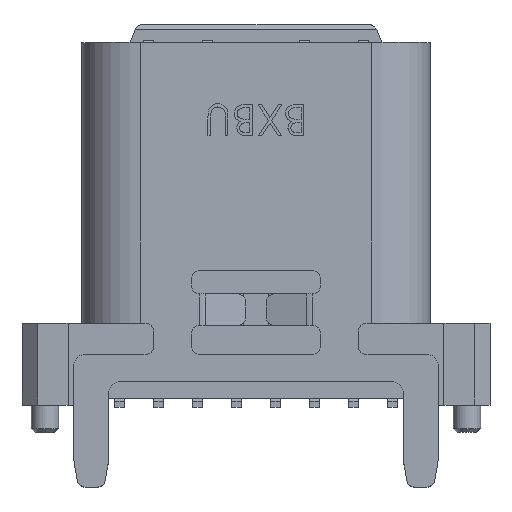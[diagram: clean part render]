
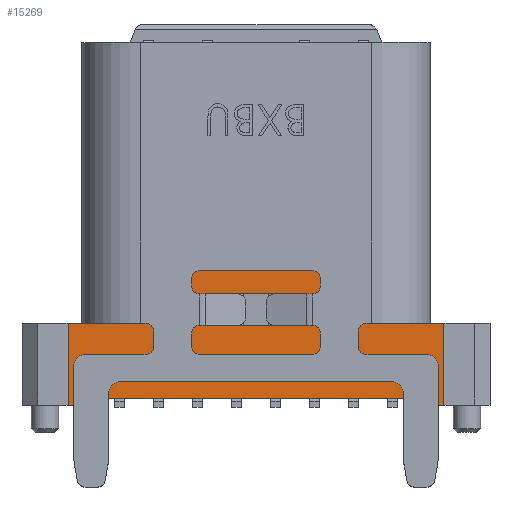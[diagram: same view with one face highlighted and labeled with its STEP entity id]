
A CAD part, top view. The second image highlights one B-rep face of the part: STEP entity #15269.
In plain terms, the highlighted planar face has unit normal (0, 0, 1).
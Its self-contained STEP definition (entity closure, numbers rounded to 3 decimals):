
#73 = DIRECTION ( 'NONE',  ( -1., 0., 0. ) ) ;
#222 = DIRECTION ( 'NONE',  ( 1., 0., 0. ) ) ;
#421 = VERTEX_POINT ( 'NONE', #7737 ) ;
#1040 = EDGE_CURVE ( 'NONE', #15908, #17272, #4727, .T. ) ;
#1053 = LINE ( 'NONE', #4977, #8233 ) ;
#1226 = EDGE_CURVE ( 'NONE', #15678, #4589, #14870, .T. ) ;
#1284 = VERTEX_POINT ( 'NONE', #13378 ) ;
#1301 = CARTESIAN_POINT ( 'NONE',  ( 21.705, -19.999, -0.33 ) ) ;
#1416 = VECTOR ( 'NONE', #12732, 1000. ) ;
#1466 = EDGE_CURVE ( 'NONE', #7004, #16719, #8377, .T. ) ;
#1522 = EDGE_LOOP ( 'NONE', ( #15790, #6476, #3836, #15058, #16117, #13472, #10928, #2552, #15754, #4750, #16832, #13943 ) ) ;
#1555 = CARTESIAN_POINT ( 'NONE',  ( 27.645, -19.999, -0.33 ) ) ;
#1627 = AXIS2_PLACEMENT_3D ( 'NONE', #18063, #2508, #15276 ) ;
#1745 = CARTESIAN_POINT ( 'NONE',  ( 27.645, -23.049, -0.33 ) ) ;
#2296 = EDGE_CURVE ( 'NONE', #421, #1284, #15570, .T. ) ;
#2480 = LINE ( 'NONE', #12337, #15930 ) ;
#2508 = DIRECTION ( 'NONE',  ( 0., 0., 1. ) ) ;
#2552 = ORIENTED_EDGE ( 'NONE', *, *, #16503, .F. ) ;
#2700 = CARTESIAN_POINT ( 'NONE',  ( 25.98, -22.279, -0.33 ) ) ;
#2731 = LINE ( 'NONE', #14190, #17552 ) ;
#2842 = EDGE_CURVE ( 'NONE', #17272, #15678, #5167, .T. ) ;
#3244 = EDGE_LOOP ( 'NONE', ( #15638, #12162, #6382, #16050 ) ) ;
#3393 = DIRECTION ( 'NONE',  ( -1., 0., 0. ) ) ;
#3481 = LINE ( 'NONE', #12018, #9211 ) ;
#3734 = EDGE_CURVE ( 'NONE', #4816, #7004, #14410, .T. ) ;
#3836 = ORIENTED_EDGE ( 'NONE', *, *, #3734, .F. ) ;
#3952 = VECTOR ( 'NONE', #222, 1000. ) ;
#3973 = DIRECTION ( 'NONE',  ( 0., -1., 0. ) ) ;
#4209 = CARTESIAN_POINT ( 'NONE',  ( 20.35, -25.149, -0.33 ) ) ;
#4240 = CARTESIAN_POINT ( 'NONE',  ( 19.855, -23.049, -0.33 ) ) ;
#4422 = CARTESIAN_POINT ( 'NONE',  ( 23.37, -22.279, -0.33 ) ) ;
#4589 = VERTEX_POINT ( 'NONE', #9539 ) ;
#4634 = DIRECTION ( 'NONE',  ( 0., 1., 0. ) ) ;
#4727 = LINE ( 'NONE', #1745, #6410 ) ;
#4750 = ORIENTED_EDGE ( 'NONE', *, *, #2842, .T. ) ;
#4816 = VERTEX_POINT ( 'NONE', #8882 ) ;
#4977 = CARTESIAN_POINT ( 'NONE',  ( 25.98, -22.259, -0.33 ) ) ;
#5068 = DIRECTION ( 'NONE',  ( 0., -1., 0. ) ) ;
#5128 = DIRECTION ( 'NONE',  ( -1., 0., 0. ) ) ;
#5167 = LINE ( 'NONE', #10905, #17276 ) ;
#5435 = CARTESIAN_POINT ( 'NONE',  ( 29.495, -25.149, -0.33 ) ) ;
#5511 = FACE_BOUND ( 'NONE', #3244, .T. ) ;
#5602 = EDGE_CURVE ( 'NONE', #7020, #11877, #2731, .T. ) ;
#5657 = DIRECTION ( 'NONE',  ( -1., 0., 0. ) ) ;
#5672 = DIRECTION ( 'NONE',  ( 0., 1., 0. ) ) ;
#5964 = VERTEX_POINT ( 'NONE', #17151 ) ;
#6313 = DIRECTION ( 'NONE',  ( 0., -1., 0. ) ) ;
#6346 = VECTOR ( 'NONE', #73, 1000. ) ;
#6382 = ORIENTED_EDGE ( 'NONE', *, *, #16172, .F. ) ;
#6388 = VECTOR ( 'NONE', #5128, 1000. ) ;
#6392 = EDGE_CURVE ( 'NONE', #16719, #17571, #11400, .T. ) ;
#6410 = VECTOR ( 'NONE', #4634, 1000. ) ;
#6436 = CARTESIAN_POINT ( 'NONE',  ( 27.645, -23.049, -0.33 ) ) ;
#6476 = ORIENTED_EDGE ( 'NONE', *, *, #1466, .F. ) ;
#6961 = CARTESIAN_POINT ( 'NONE',  ( 20.35, -25.149, -0.33 ) ) ;
#6998 = CARTESIAN_POINT ( 'NONE',  ( 20.35, -24.499, -0.33 ) ) ;
#7004 = VERTEX_POINT ( 'NONE', #4209 ) ;
#7020 = VERTEX_POINT ( 'NONE', #5435 ) ;
#7115 = CARTESIAN_POINT ( 'NONE',  ( 19.855, -23.119, -0.33 ) ) ;
#7260 = DIRECTION ( 'NONE',  ( 0., -1., 0. ) ) ;
#7640 = CARTESIAN_POINT ( 'NONE',  ( 21.705, -19.999, -0.33 ) ) ;
#7737 = CARTESIAN_POINT ( 'NONE',  ( 23.37, -23.119, -0.33 ) ) ;
#8233 = VECTOR ( 'NONE', #5068, 1000. ) ;
#8377 = LINE ( 'NONE', #6961, #12129 ) ;
#8882 = CARTESIAN_POINT ( 'NONE',  ( 20.35, -24.969, -0.33 ) ) ;
#9211 = VECTOR ( 'NONE', #13711, 1000. ) ;
#9386 = LINE ( 'NONE', #16347, #18358 ) ;
#9539 = CARTESIAN_POINT ( 'NONE',  ( 21.705, -23.049, -0.33 ) ) ;
#9540 = PLANE ( 'NONE',  #1627 ) ;
#9565 = VERTEX_POINT ( 'NONE', #4422 ) ;
#9614 = EDGE_CURVE ( 'NONE', #7020, #9975, #3481, .T. ) ;
#9674 = DIRECTION ( 'NONE',  ( 0., 1., 0. ) ) ;
#9975 = VERTEX_POINT ( 'NONE', #14637 ) ;
#10522 = DIRECTION ( 'NONE',  ( 1., 0., 0. ) ) ;
#10692 = CARTESIAN_POINT ( 'NONE',  ( 27.645, -23.049, -0.33 ) ) ;
#10905 = CARTESIAN_POINT ( 'NONE',  ( 27.645, -19.999, -0.33 ) ) ;
#10928 = ORIENTED_EDGE ( 'NONE', *, *, #5602, .T. ) ;
#10960 = EDGE_CURVE ( 'NONE', #12334, #1284, #1053, .T. ) ;
#11400 = LINE ( 'NONE', #14126, #16325 ) ;
#11680 = LINE ( 'NONE', #11774, #14524 ) ;
#11774 = CARTESIAN_POINT ( 'NONE',  ( 23.37, -22.259, -0.33 ) ) ;
#11877 = VERTEX_POINT ( 'NONE', #13953 ) ;
#12018 = CARTESIAN_POINT ( 'NONE',  ( 29.895, -25.149, -0.33 ) ) ;
#12129 = VECTOR ( 'NONE', #5657, 1000. ) ;
#12162 = ORIENTED_EDGE ( 'NONE', *, *, #2296, .F. ) ;
#12334 = VERTEX_POINT ( 'NONE', #14834 ) ;
#12337 = CARTESIAN_POINT ( 'NONE',  ( 29., -24.499, -0.33 ) ) ;
#12444 = VECTOR ( 'NONE', #6313, 1000. ) ;
#12565 = CARTESIAN_POINT ( 'NONE',  ( 19.855, -25.149, -0.33 ) ) ;
#12732 = DIRECTION ( 'NONE',  ( 0., -1., 0. ) ) ;
#13378 = CARTESIAN_POINT ( 'NONE',  ( 25.98, -23.119, -0.33 ) ) ;
#13472 = ORIENTED_EDGE ( 'NONE', *, *, #9614, .F. ) ;
#13495 = CARTESIAN_POINT ( 'NONE',  ( 20., -24.969, -0.33 ) ) ;
#13711 = DIRECTION ( 'NONE',  ( -1., 0., 0. ) ) ;
#13777 = FACE_OUTER_BOUND ( 'NONE', #1522, .T. ) ;
#13943 = ORIENTED_EDGE ( 'NONE', *, *, #17848, .F. ) ;
#13953 = CARTESIAN_POINT ( 'NONE',  ( 29.495, -23.049, -0.33 ) ) ;
#14126 = CARTESIAN_POINT ( 'NONE',  ( 19.855, -25.149, -0.33 ) ) ;
#14190 = CARTESIAN_POINT ( 'NONE',  ( 29.495, -25.149, -0.33 ) ) ;
#14255 = DIRECTION ( 'NONE',  ( 1., 0., 0. ) ) ;
#14410 = LINE ( 'NONE', #6998, #1416 ) ;
#14435 = EDGE_CURVE ( 'NONE', #5964, #9975, #2480, .T. ) ;
#14524 = VECTOR ( 'NONE', #7260, 1000. ) ;
#14637 = CARTESIAN_POINT ( 'NONE',  ( 29., -25.149, -0.33 ) ) ;
#14834 = CARTESIAN_POINT ( 'NONE',  ( 25.98, -22.279, -0.33 ) ) ;
#14870 = LINE ( 'NONE', #7640, #12444 ) ;
#15058 = ORIENTED_EDGE ( 'NONE', *, *, #15138, .F. ) ;
#15138 = EDGE_CURVE ( 'NONE', #5964, #4816, #17700, .T. ) ;
#15269 = ADVANCED_FACE ( 'NONE', ( #5511, #13777 ), #9540, .T. ) ;
#15276 = DIRECTION ( 'NONE',  ( 1., 0., 0. ) ) ;
#15570 = LINE ( 'NONE', #7115, #16605 ) ;
#15638 = ORIENTED_EDGE ( 'NONE', *, *, #10960, .T. ) ;
#15678 = VERTEX_POINT ( 'NONE', #1301 ) ;
#15754 = ORIENTED_EDGE ( 'NONE', *, *, #1040, .T. ) ;
#15790 = ORIENTED_EDGE ( 'NONE', *, *, #6392, .F. ) ;
#15908 = VERTEX_POINT ( 'NONE', #6436 ) ;
#15930 = VECTOR ( 'NONE', #3973, 1000. ) ;
#16050 = ORIENTED_EDGE ( 'NONE', *, *, #16741, .F. ) ;
#16070 = LINE ( 'NONE', #10692, #3952 ) ;
#16117 = ORIENTED_EDGE ( 'NONE', *, *, #14435, .T. ) ;
#16172 = EDGE_CURVE ( 'NONE', #9565, #421, #11680, .T. ) ;
#16325 = VECTOR ( 'NONE', #5672, 1000. ) ;
#16347 = CARTESIAN_POINT ( 'NONE',  ( 20.766, -23.049, -0.33 ) ) ;
#16503 = EDGE_CURVE ( 'NONE', #15908, #11877, #16070, .T. ) ;
#16605 = VECTOR ( 'NONE', #14255, 1000. ) ;
#16719 = VERTEX_POINT ( 'NONE', #12565 ) ;
#16741 = EDGE_CURVE ( 'NONE', #12334, #9565, #18539, .T. ) ;
#16832 = ORIENTED_EDGE ( 'NONE', *, *, #1226, .T. ) ;
#17151 = CARTESIAN_POINT ( 'NONE',  ( 29., -24.969, -0.33 ) ) ;
#17272 = VERTEX_POINT ( 'NONE', #1555 ) ;
#17276 = VECTOR ( 'NONE', #3393, 1000. ) ;
#17552 = VECTOR ( 'NONE', #9674, 1000. ) ;
#17571 = VERTEX_POINT ( 'NONE', #4240 ) ;
#17700 = LINE ( 'NONE', #13495, #6388 ) ;
#17848 = EDGE_CURVE ( 'NONE', #17571, #4589, #9386, .T. ) ;
#18063 = CARTESIAN_POINT ( 'NONE',  ( 21.705, -29.749, -0.33 ) ) ;
#18358 = VECTOR ( 'NONE', #10522, 1000. ) ;
#18539 = LINE ( 'NONE', #2700, #6346 ) ;
